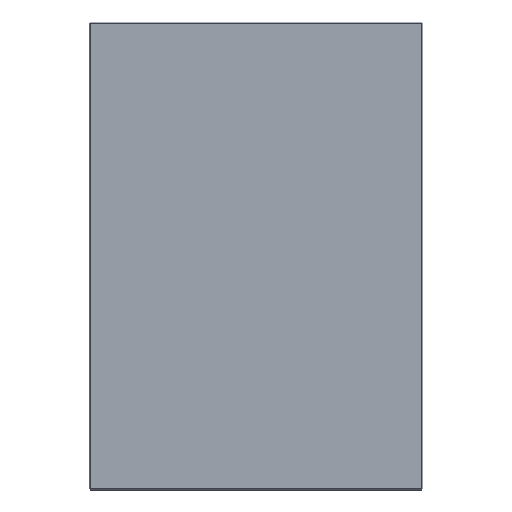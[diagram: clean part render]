
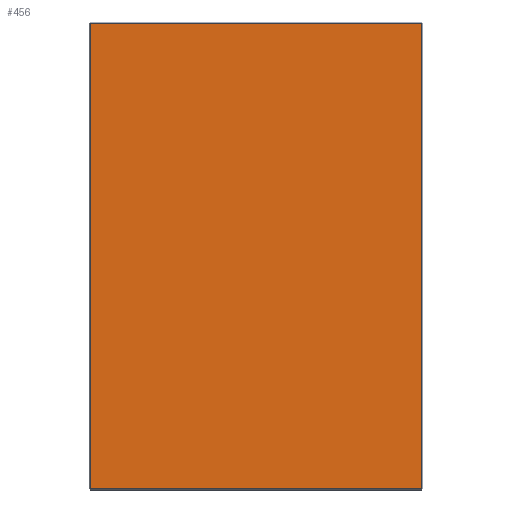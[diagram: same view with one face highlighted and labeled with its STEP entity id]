
A CAD part, top view. The second image highlights one B-rep face of the part: STEP entity #456.
In plain terms, the highlighted planar face has unit normal (0, 0, 1).
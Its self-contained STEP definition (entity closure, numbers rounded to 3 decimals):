
#17 = CARTESIAN_POINT ( 'NONE',  ( 0., 0., 27. ) ) ;
#18 = EDGE_LOOP ( 'NONE', ( #534, #251, #119, #582 ) ) ;
#36 = DIRECTION ( 'NONE',  ( 0., 1., 0. ) ) ;
#52 = VECTOR ( 'NONE', #75, 1000. ) ;
#69 = CARTESIAN_POINT ( 'NONE',  ( -159., 222., 27. ) ) ;
#72 = LINE ( 'NONE', #540, #329 ) ;
#75 = DIRECTION ( 'NONE',  ( 0., -1., 0. ) ) ;
#101 = CARTESIAN_POINT ( 'NONE',  ( 158., 222., 27. ) ) ;
#119 = ORIENTED_EDGE ( 'NONE', *, *, #625, .T. ) ;
#138 = EDGE_CURVE ( 'NONE', #600, #414, #219, .T. ) ;
#182 = PLANE ( 'NONE',  #365 ) ;
#199 = CARTESIAN_POINT ( 'NONE',  ( 158., -222., 27. ) ) ;
#204 = CARTESIAN_POINT ( 'NONE',  ( -158., 222., 27. ) ) ;
#219 = LINE ( 'NONE', #69, #641 ) ;
#233 = DIRECTION ( 'NONE',  ( 0., 0., 1. ) ) ;
#251 = ORIENTED_EDGE ( 'NONE', *, *, #138, .T. ) ;
#329 = VECTOR ( 'NONE', #357, 1000. ) ;
#346 = CARTESIAN_POINT ( 'NONE',  ( -158., -223., 27. ) ) ;
#352 = FACE_OUTER_BOUND ( 'NONE', #18, .T. ) ;
#356 = VERTEX_POINT ( 'NONE', #389 ) ;
#357 = DIRECTION ( 'NONE',  ( 1., 0., 0. ) ) ;
#365 = AXIS2_PLACEMENT_3D ( 'NONE', #17, #233, #457 ) ;
#389 = CARTESIAN_POINT ( 'NONE',  ( -158., -222., 27. ) ) ;
#397 = EDGE_CURVE ( 'NONE', #578, #600, #559, .T. ) ;
#410 = EDGE_CURVE ( 'NONE', #356, #578, #72, .T. ) ;
#414 = VERTEX_POINT ( 'NONE', #204 ) ;
#430 = CARTESIAN_POINT ( 'NONE',  ( 158., 223., 27. ) ) ;
#456 = ADVANCED_FACE ( 'NONE', ( #352 ), #182, .T. ) ;
#457 = DIRECTION ( 'NONE',  ( 1., 0., 0. ) ) ;
#468 = LINE ( 'NONE', #346, #52 ) ;
#534 = ORIENTED_EDGE ( 'NONE', *, *, #397, .T. ) ;
#540 = CARTESIAN_POINT ( 'NONE',  ( 159., -222., 27. ) ) ;
#559 = LINE ( 'NONE', #430, #586 ) ;
#578 = VERTEX_POINT ( 'NONE', #199 ) ;
#582 = ORIENTED_EDGE ( 'NONE', *, *, #410, .T. ) ;
#586 = VECTOR ( 'NONE', #36, 1000. ) ;
#600 = VERTEX_POINT ( 'NONE', #101 ) ;
#619 = DIRECTION ( 'NONE',  ( -1., 0., 0. ) ) ;
#625 = EDGE_CURVE ( 'NONE', #414, #356, #468, .T. ) ;
#641 = VECTOR ( 'NONE', #619, 1000. ) ;
